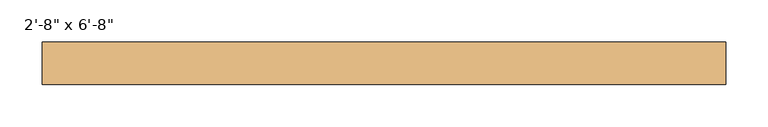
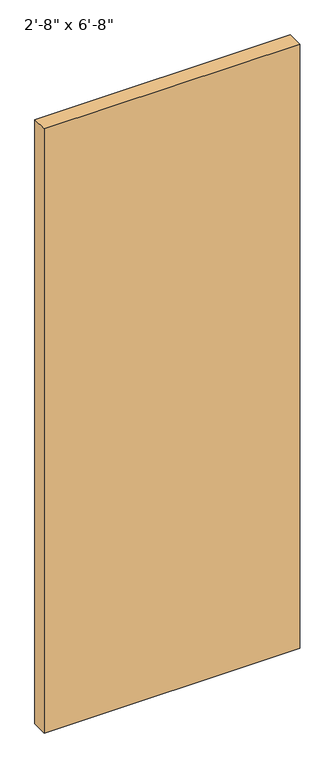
"""IFC4 building model written with IfcOpenShell, lengths in millimetres: door geometry."""

from ifc_helpers import new_model, si_unit, origin, origin_with_axes, place, context, project, spatial, polyline, outline, extrude, source, transform, mapped, element, save


def door_2963ea5e(model_context):
    return source(origin(), model_context, "Body", "SweptSolid", [
        extrude(outline(polyline([(406.4, 31.55), (-406.4, 31.55), (-406.4, 82.55), (406.4, 82.55), (406.4, 31.55)])), origin_with_axes(), (0.0, 0.0, 1.0), 2032.0),
    ])


if __name__ == "__main__":
    model = new_model("IFC4")
    model_context = context("Model", 3, world=origin())
    ifc_project = project(units=[si_unit("LENGTHUNIT", "METRE", prefix="MILLI")], contexts=[model_context])
    site = spatial("IfcSite", under=ifc_project)
    building = spatial("IfcBuilding", under=site)
    placement = place(None, origin())
    door_shape = door_2963ea5e(model_context)
    element("IfcDoor", 1, ObjectType="Planitar - Single Door_Flush Panel : 2'-8\" x 6'-8\"", at=placement, inside=building, context=model_context, shape_type="MappedRepresentation", body=[
        mapped(door_shape, transform((0.0, 0.0, 0.0), x_axis=(1.0, 0.0, 0.0), y_axis=(0.0, 1.0, 0.0), z_axis=(0.0, 0.0, 1.0))),
    ])
    save(model, "model.ifc")
